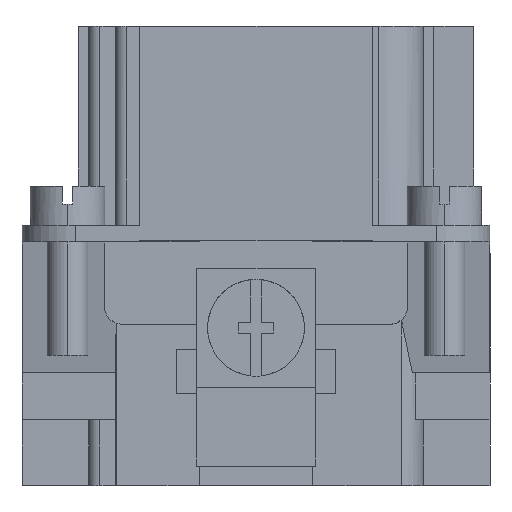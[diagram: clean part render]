
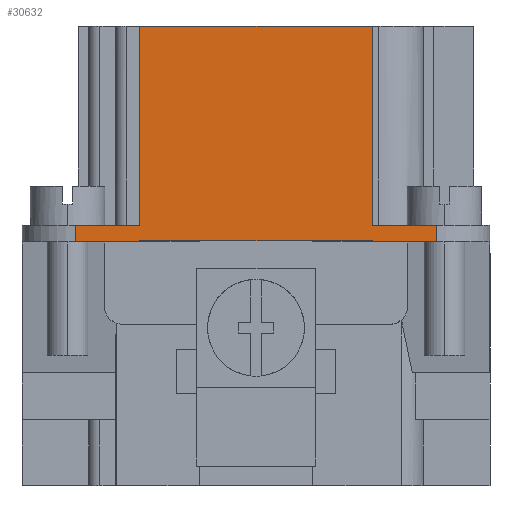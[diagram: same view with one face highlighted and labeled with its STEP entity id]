
A CAD part, left-side view. The second image highlights one B-rep face of the part: STEP entity #30632.
In plain terms, the highlighted planar face has unit normal (-1, 0, 0).
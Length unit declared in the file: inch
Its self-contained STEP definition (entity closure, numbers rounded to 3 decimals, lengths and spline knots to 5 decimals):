
#5603 = VERTEX_POINT ( 'NONE', #12595 ) ;
#5605 = EDGE_CURVE ( 'NONE', #5606, #5603, #12594, .T. ) ;
#5606 = VERTEX_POINT ( 'NONE', #12590 ) ;
#7336 = VERTEX_POINT ( 'NONE', #19703 ) ;
#7409 = VERTEX_POINT ( 'NONE', #19769 ) ;
#7453 = VERTEX_POINT ( 'NONE', #19842 ) ;
#7458 = EDGE_CURVE ( 'NONE', #7336, #7453, #19840, .T. ) ;
#7530 = VERTEX_POINT ( 'NONE', #19920 ) ;
#7534 = EDGE_CURVE ( 'NONE', #7530, #7409, #19919, .T. ) ;
#8820 = DIRECTION ( 'NONE',  ( 0., -1., 0. ) ) ;
#8821 = VECTOR ( 'NONE', #8820, 39.37008 ) ;
#8823 = CARTESIAN_POINT ( 'NONE',  ( -0.995, -0.328, 0. ) ) ;
#8838 = LINE ( 'NONE', #8823, #8821 ) ;
#9016 = DIRECTION ( 'NONE',  ( 0., 0., -1. ) ) ;
#9017 = VECTOR ( 'NONE', #9016, 39.37008 ) ;
#9018 = CARTESIAN_POINT ( 'NONE',  ( -0.995, -0.328, -0.561 ) ) ;
#9020 = LINE ( 'NONE', #9018, #9017 ) ;
#9024 = DIRECTION ( 'NONE',  ( 0., 0., -1. ) ) ;
#9025 = VECTOR ( 'NONE', #9024, 39.37008 ) ;
#9027 = CARTESIAN_POINT ( 'NONE',  ( -0.995, 0.328, -0.561 ) ) ;
#9030 = LINE ( 'NONE', #9027, #9025 ) ;
#9034 = DIRECTION ( 'NONE',  ( 0., 0., -1. ) ) ;
#9036 = VECTOR ( 'NONE', #9034, 39.37008 ) ;
#9038 = CARTESIAN_POINT ( 'NONE',  ( -0.995, 0.51, -0.561 ) ) ;
#9039 = LINE ( 'NONE', #9038, #9036 ) ;
#9064 = EDGE_CURVE ( 'NONE', #7530, #9065, #22677, .T. ) ;
#9065 = VERTEX_POINT ( 'NONE', #22673 ) ;
#9074 = DIRECTION ( 'NONE',  ( 0., 0., 1. ) ) ;
#9076 = DIRECTION ( 'NONE',  ( -1., 0., 0. ) ) ;
#9078 = CARTESIAN_POINT ( 'NONE',  ( -0.995, -0.328, -1.295 ) ) ;
#9079 = AXIS2_PLACEMENT_3D ( 'NONE', #9078, #9076, #9074 ) ;
#9084 = PLANE ( 'NONE',  #9079 ) ;
#9135 = FACE_OUTER_BOUND ( 'NONE', #30603, .T. ) ;
#9217 = EDGE_CURVE ( 'NONE', #7336, #9219, #22455, .T. ) ;
#9219 = VERTEX_POINT ( 'NONE', #22967 ) ;
#9284 = VERTEX_POINT ( 'NONE', #23044 ) ;
#9378 = VERTEX_POINT ( 'NONE', #23173 ) ;
#9380 = EDGE_CURVE ( 'NONE', #9378, #9383, #23172, .T. ) ;
#9383 = VERTEX_POINT ( 'NONE', #23168 ) ;
#9421 = VERTEX_POINT ( 'NONE', #23253 ) ;
#9425 = EDGE_CURVE ( 'NONE', #9421, #9284, #23252, .T. ) ;
#9480 = DIRECTION ( 'NONE',  ( 0., 0., -1. ) ) ;
#9481 = VECTOR ( 'NONE', #9480, 39.37008 ) ;
#9484 = CARTESIAN_POINT ( 'NONE',  ( -0.995, -0.51, -0.561 ) ) ;
#9485 = LINE ( 'NONE', #9484, #9481 ) ;
#12590 = CARTESIAN_POINT ( 'NONE',  ( -0.995, -0.328, -0.608 ) ) ;
#12591 = DIRECTION ( 'NONE',  ( 0., -1., 0. ) ) ;
#12592 = VECTOR ( 'NONE', #12591, 39.37008 ) ;
#12593 = CARTESIAN_POINT ( 'NONE',  ( -0.995, -0.19415, -0.608 ) ) ;
#12594 = LINE ( 'NONE', #12593, #12592 ) ;
#12595 = CARTESIAN_POINT ( 'NONE',  ( -0.995, -0.51, -0.608 ) ) ;
#19703 = CARTESIAN_POINT ( 'NONE',  ( -0.995, 0.328, -0.561 ) ) ;
#19769 = CARTESIAN_POINT ( 'NONE',  ( -0.995, -0.51, -0.561 ) ) ;
#19837 = DIRECTION ( 'NONE',  ( 0., 1., 0. ) ) ;
#19838 = VECTOR ( 'NONE', #19837, 39.37008 ) ;
#19839 = CARTESIAN_POINT ( 'NONE',  ( -0.995, 0.19415, -0.561 ) ) ;
#19840 = LINE ( 'NONE', #19839, #19838 ) ;
#19842 = CARTESIAN_POINT ( 'NONE',  ( -0.995, 0.51, -0.561 ) ) ;
#19916 = DIRECTION ( 'NONE',  ( 0., -1., 0. ) ) ;
#19917 = VECTOR ( 'NONE', #19916, 39.37008 ) ;
#19918 = CARTESIAN_POINT ( 'NONE',  ( -0.995, -0.19415, -0.561 ) ) ;
#19919 = LINE ( 'NONE', #19918, #19917 ) ;
#19920 = CARTESIAN_POINT ( 'NONE',  ( -0.995, -0.328, -0.561 ) ) ;
#22450 = CARTESIAN_POINT ( 'NONE',  ( -0.995, 0.328, -1.295 ) ) ;
#22455 = LINE ( 'NONE', #22450, #22687 ) ;
#22673 = CARTESIAN_POINT ( 'NONE',  ( -0.995, -0.328, 0. ) ) ;
#22674 = DIRECTION ( 'NONE',  ( 0., 0., 1. ) ) ;
#22675 = VECTOR ( 'NONE', #22674, 39.37008 ) ;
#22676 = CARTESIAN_POINT ( 'NONE',  ( -0.995, -0.328, -1.295 ) ) ;
#22677 = LINE ( 'NONE', #22676, #22675 ) ;
#22687 = VECTOR ( 'NONE', #22904, 39.37008 ) ;
#22904 = DIRECTION ( 'NONE',  ( 0., 0., 1. ) ) ;
#22967 = CARTESIAN_POINT ( 'NONE',  ( -0.995, 0.328, 0. ) ) ;
#23044 = CARTESIAN_POINT ( 'NONE',  ( -0.995, 0.328, -0.605 ) ) ;
#23168 = CARTESIAN_POINT ( 'NONE',  ( -0.995, 0.51, -0.608 ) ) ;
#23169 = DIRECTION ( 'NONE',  ( 0., 1., 0. ) ) ;
#23170 = VECTOR ( 'NONE', #23169, 39.37008 ) ;
#23171 = CARTESIAN_POINT ( 'NONE',  ( -0.995, 0.19415, -0.608 ) ) ;
#23172 = LINE ( 'NONE', #23171, #23170 ) ;
#23173 = CARTESIAN_POINT ( 'NONE',  ( -0.995, 0.328, -0.608 ) ) ;
#23249 = DIRECTION ( 'NONE',  ( 0., 1., 0. ) ) ;
#23250 = VECTOR ( 'NONE', #23249, 39.37008 ) ;
#23251 = CARTESIAN_POINT ( 'NONE',  ( -0.995, 0.66, -0.605 ) ) ;
#23252 = LINE ( 'NONE', #23251, #23250 ) ;
#23253 = CARTESIAN_POINT ( 'NONE',  ( -0.995, -0.328, -0.605 ) ) ;
#30565 = ORIENTED_EDGE ( 'NONE', *, *, #7534, .F. ) ;
#30567 = ORIENTED_EDGE ( 'NONE', *, *, #9064, .T. ) ;
#30568 = ORIENTED_EDGE ( 'NONE', *, *, #30569, .F. ) ;
#30569 = EDGE_CURVE ( 'NONE', #9219, #9065, #8838, .T. ) ;
#30603 = EDGE_LOOP ( 'NONE', ( #30605, #30606, #30608, #30612, #30615, #30617, #30618, #30701, #30703, #30565, #30567, #30568 ) ) ;
#30605 = ORIENTED_EDGE ( 'NONE', *, *, #9217, .F. ) ;
#30606 = ORIENTED_EDGE ( 'NONE', *, *, #7458, .T. ) ;
#30608 = ORIENTED_EDGE ( 'NONE', *, *, #30610, .T. ) ;
#30610 = EDGE_CURVE ( 'NONE', #7453, #9383, #9039, .T. ) ;
#30612 = ORIENTED_EDGE ( 'NONE', *, *, #9380, .F. ) ;
#30615 = ORIENTED_EDGE ( 'NONE', *, *, #30616, .F. ) ;
#30616 = EDGE_CURVE ( 'NONE', #9284, #9378, #9030, .T. ) ;
#30617 = ORIENTED_EDGE ( 'NONE', *, *, #9425, .F. ) ;
#30618 = ORIENTED_EDGE ( 'NONE', *, *, #30620, .T. ) ;
#30620 = EDGE_CURVE ( 'NONE', #9421, #5606, #9020, .T. ) ;
#30632 = ADVANCED_FACE ( 'NONE', ( #9135 ), #9084, .T. ) ;
#30701 = ORIENTED_EDGE ( 'NONE', *, *, #5605, .T. ) ;
#30703 = ORIENTED_EDGE ( 'NONE', *, *, #30704, .F. ) ;
#30704 = EDGE_CURVE ( 'NONE', #7409, #5603, #9485, .T. ) ;
